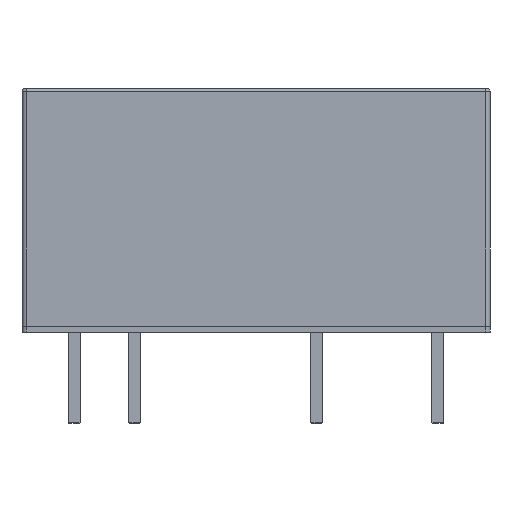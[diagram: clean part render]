
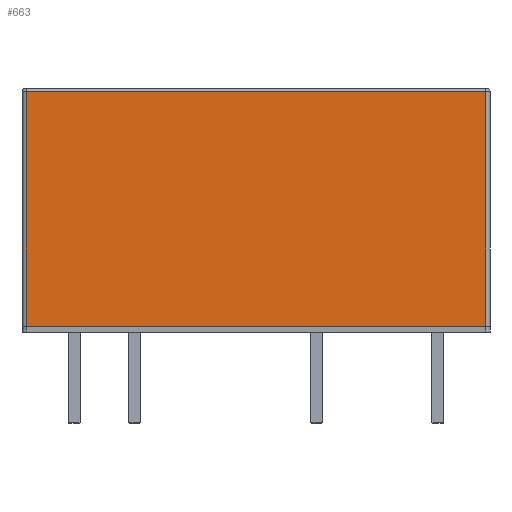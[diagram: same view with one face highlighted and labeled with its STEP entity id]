
A CAD part, front view. The second image highlights one B-rep face of the part: STEP entity #663.
In plain terms, the highlighted planar face has unit normal (0, -1, 0).
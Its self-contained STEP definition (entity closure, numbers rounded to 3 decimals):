
#114 = CYLINDRICAL_SURFACE('',#115,0.18);
#115 = AXIS2_PLACEMENT_3D('',#116,#117,#118);
#116 = CARTESIAN_POINT('',(-2.,-6.12,0.26));
#117 = DIRECTION('',(0.,0.,1.));
#118 = DIRECTION('',(-1.,-0.,0.));
#142 = PLANE('',#143);
#143 = AXIS2_PLACEMENT_3D('',#144,#145,#146);
#144 = CARTESIAN_POINT('',(-2.18,-6.3,0.26));
#145 = DIRECTION('',(0.,0.,1.));
#146 = DIRECTION('',(1.,0.,0.));
#213 = VERTEX_POINT('',#214);
#214 = CARTESIAN_POINT('',(-2.,-6.3,0.26));
#236 = EDGE_CURVE('',#213,#237,#239,.T.);
#237 = VERTEX_POINT('',#238);
#238 = CARTESIAN_POINT('',(-2.,-6.3,10.08));
#239 = SURFACE_CURVE('',#240,(#244,#251),.PCURVE_S1.);
#240 = LINE('',#241,#242);
#241 = CARTESIAN_POINT('',(-2.,-6.3,0.26));
#242 = VECTOR('',#243,1.);
#243 = DIRECTION('',(0.,0.,1.));
#244 = PCURVE('',#114,#245);
#245 = DEFINITIONAL_REPRESENTATION('',(#246),#250);
#246 = LINE('',#247,#248);
#247 = CARTESIAN_POINT('',(1.571,0.));
#248 = VECTOR('',#249,1.);
#249 = DIRECTION('',(0.,1.));
#250 = ( GEOMETRIC_REPRESENTATION_CONTEXT(2) 
PARAMETRIC_REPRESENTATION_CONTEXT() REPRESENTATION_CONTEXT('2D SPACE',''
  ) );
#251 = PCURVE('',#252,#257);
#252 = PLANE('',#253);
#253 = AXIS2_PLACEMENT_3D('',#254,#255,#256);
#254 = CARTESIAN_POINT('',(-2.18,-6.3,0.26));
#255 = DIRECTION('',(0.,1.,0.));
#256 = DIRECTION('',(0.,0.,1.));
#257 = DEFINITIONAL_REPRESENTATION('',(#258),#262);
#258 = LINE('',#259,#260);
#259 = CARTESIAN_POINT('',(0.,0.18));
#260 = VECTOR('',#261,1.);
#261 = DIRECTION('',(1.,0.));
#262 = ( GEOMETRIC_REPRESENTATION_CONTEXT(2) 
PARAMETRIC_REPRESENTATION_CONTEXT() REPRESENTATION_CONTEXT('2D SPACE',''
  ) );
#389 = EDGE_CURVE('',#213,#390,#392,.T.);
#390 = VERTEX_POINT('',#391);
#391 = CARTESIAN_POINT('',(17.24,-6.3,0.26));
#392 = SURFACE_CURVE('',#393,(#397,#404),.PCURVE_S1.);
#393 = LINE('',#394,#395);
#394 = CARTESIAN_POINT('',(-2.18,-6.3,0.26));
#395 = VECTOR('',#396,1.);
#396 = DIRECTION('',(1.,0.,0.));
#397 = PCURVE('',#142,#398);
#398 = DEFINITIONAL_REPRESENTATION('',(#399),#403);
#399 = LINE('',#400,#401);
#400 = CARTESIAN_POINT('',(0.,0.));
#401 = VECTOR('',#402,1.);
#402 = DIRECTION('',(1.,0.));
#403 = ( GEOMETRIC_REPRESENTATION_CONTEXT(2) 
PARAMETRIC_REPRESENTATION_CONTEXT() REPRESENTATION_CONTEXT('2D SPACE',''
  ) );
#404 = PCURVE('',#252,#405);
#405 = DEFINITIONAL_REPRESENTATION('',(#406),#410);
#406 = LINE('',#407,#408);
#407 = CARTESIAN_POINT('',(0.,0.));
#408 = VECTOR('',#409,1.);
#409 = DIRECTION('',(0.,1.));
#410 = ( GEOMETRIC_REPRESENTATION_CONTEXT(2) 
PARAMETRIC_REPRESENTATION_CONTEXT() REPRESENTATION_CONTEXT('2D SPACE',''
  ) );
#433 = CYLINDRICAL_SURFACE('',#434,0.18);
#434 = AXIS2_PLACEMENT_3D('',#435,#436,#437);
#435 = CARTESIAN_POINT('',(17.24,-6.12,0.26));
#436 = DIRECTION('',(0.,0.,1.));
#437 = DIRECTION('',(1.,0.,-0.));
#625 = CYLINDRICAL_SURFACE('',#626,0.12);
#626 = AXIS2_PLACEMENT_3D('',#627,#628,#629);
#627 = CARTESIAN_POINT('',(17.24,-6.18,10.08));
#628 = DIRECTION('',(-1.,-0.,-0.));
#629 = DIRECTION('',(0.,-1.,0.));
#663 = ADVANCED_FACE('',(#664),#252,.F.);
#664 = FACE_BOUND('',#665,.F.);
#665 = EDGE_LOOP('',(#666,#667,#690,#711));
#666 = ORIENTED_EDGE('',*,*,#236,.T.);
#667 = ORIENTED_EDGE('',*,*,#668,.F.);
#668 = EDGE_CURVE('',#669,#237,#671,.T.);
#669 = VERTEX_POINT('',#670);
#670 = CARTESIAN_POINT('',(17.24,-6.3,10.08));
#671 = SURFACE_CURVE('',#672,(#676,#683),.PCURVE_S1.);
#672 = LINE('',#673,#674);
#673 = CARTESIAN_POINT('',(17.24,-6.3,10.08));
#674 = VECTOR('',#675,1.);
#675 = DIRECTION('',(-1.,-0.,-0.));
#676 = PCURVE('',#252,#677);
#677 = DEFINITIONAL_REPRESENTATION('',(#678),#682);
#678 = LINE('',#679,#680);
#679 = CARTESIAN_POINT('',(9.82,19.42));
#680 = VECTOR('',#681,1.);
#681 = DIRECTION('',(-0.,-1.));
#682 = ( GEOMETRIC_REPRESENTATION_CONTEXT(2) 
PARAMETRIC_REPRESENTATION_CONTEXT() REPRESENTATION_CONTEXT('2D SPACE',''
  ) );
#683 = PCURVE('',#625,#684);
#684 = DEFINITIONAL_REPRESENTATION('',(#685),#689);
#685 = LINE('',#686,#687);
#686 = CARTESIAN_POINT('',(0.,0.));
#687 = VECTOR('',#688,1.);
#688 = DIRECTION('',(0.,1.));
#689 = ( GEOMETRIC_REPRESENTATION_CONTEXT(2) 
PARAMETRIC_REPRESENTATION_CONTEXT() REPRESENTATION_CONTEXT('2D SPACE',''
  ) );
#690 = ORIENTED_EDGE('',*,*,#691,.F.);
#691 = EDGE_CURVE('',#390,#669,#692,.T.);
#692 = SURFACE_CURVE('',#693,(#697,#704),.PCURVE_S1.);
#693 = LINE('',#694,#695);
#694 = CARTESIAN_POINT('',(17.24,-6.3,0.26));
#695 = VECTOR('',#696,1.);
#696 = DIRECTION('',(0.,0.,1.));
#697 = PCURVE('',#252,#698);
#698 = DEFINITIONAL_REPRESENTATION('',(#699),#703);
#699 = LINE('',#700,#701);
#700 = CARTESIAN_POINT('',(0.,19.42));
#701 = VECTOR('',#702,1.);
#702 = DIRECTION('',(1.,0.));
#703 = ( GEOMETRIC_REPRESENTATION_CONTEXT(2) 
PARAMETRIC_REPRESENTATION_CONTEXT() REPRESENTATION_CONTEXT('2D SPACE',''
  ) );
#704 = PCURVE('',#433,#705);
#705 = DEFINITIONAL_REPRESENTATION('',(#706),#710);
#706 = LINE('',#707,#708);
#707 = CARTESIAN_POINT('',(-1.571,0.));
#708 = VECTOR('',#709,1.);
#709 = DIRECTION('',(-0.,1.));
#710 = ( GEOMETRIC_REPRESENTATION_CONTEXT(2) 
PARAMETRIC_REPRESENTATION_CONTEXT() REPRESENTATION_CONTEXT('2D SPACE',''
  ) );
#711 = ORIENTED_EDGE('',*,*,#389,.F.);
